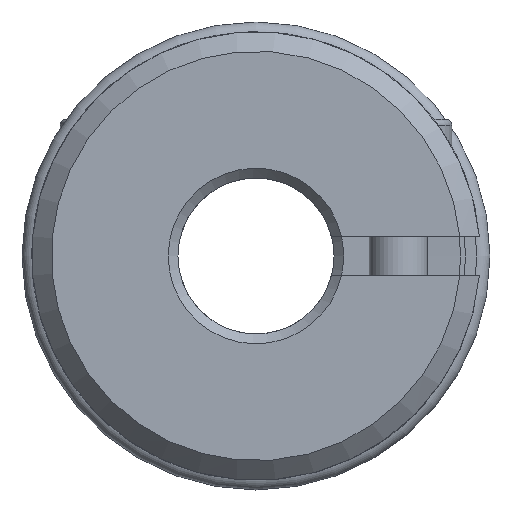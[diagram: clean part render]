
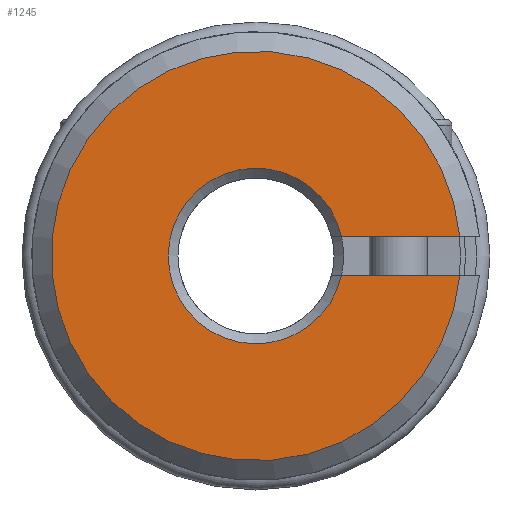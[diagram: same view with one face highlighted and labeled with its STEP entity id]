
A CAD part, left-side view. The second image highlights one B-rep face of the part: STEP entity #1245.
In plain terms, the highlighted planar face has unit normal (-1, 0, 0) as drawn and (1, 0, 0) by its records, which use the part's own axes.
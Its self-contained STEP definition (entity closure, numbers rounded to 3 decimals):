
#34=LINE('',#2231,#68);
#35=LINE('',#2235,#69);
#68=VECTOR('',#1800,1000.);
#69=VECTOR('',#1803,1000.);
#176=PLANE('',#1454);
#352=ORIENTED_EDGE('',*,*,#559,.T.);
#353=ORIENTED_EDGE('',*,*,#560,.T.);
#354=ORIENTED_EDGE('',*,*,#561,.T.);
#355=ORIENTED_EDGE('',*,*,#556,.F.);
#556=EDGE_CURVE('',#687,#688,#790,.T.);
#559=EDGE_CURVE('',#687,#689,#34,.T.);
#560=EDGE_CURVE('',#689,#690,#791,.F.);
#561=EDGE_CURVE('',#690,#688,#35,.T.);
#687=VERTEX_POINT('',#2220);
#688=VERTEX_POINT('',#2221);
#689=VERTEX_POINT('',#2232);
#690=VERTEX_POINT('',#2234);
#790=CIRCLE('',#1453,10.5);
#791=CIRCLE('',#1455,4.5);
#937=EDGE_LOOP('',(#352,#353,#354,#355));
#1107=FACE_BOUND('',#937,.T.);
#1245=ADVANCED_FACE('',(#1107),#176,.T.);
#1453=AXIS2_PLACEMENT_3D('',#2219,#1796,#1797);
#1454=AXIS2_PLACEMENT_3D('',#2230,#1798,#1799);
#1455=AXIS2_PLACEMENT_3D('',#2233,#1801,#1802);
#1796=DIRECTION('',(-1.,0.,0.));
#1797=DIRECTION('',(0.,0.,1.));
#1798=DIRECTION('',(1.,0.,0.));
#1799=DIRECTION('',(0.,0.,-1.));
#1800=DIRECTION('',(0.,-1.,0.));
#1801=DIRECTION('',(1.,0.,0.));
#1802=DIRECTION('',(0.,0.,-1.));
#1803=DIRECTION('',(0.,1.,0.));
#2219=CARTESIAN_POINT('',(9.5,0.,0.));
#2220=CARTESIAN_POINT('',(9.5,10.452,-1.));
#2221=CARTESIAN_POINT('',(9.5,10.452,1.));
#2230=CARTESIAN_POINT('',(9.5,0.,4.));
#2231=CARTESIAN_POINT('',(9.5,18.,-1.));
#2232=CARTESIAN_POINT('',(9.5,4.387,-1.));
#2233=CARTESIAN_POINT('',(9.5,0.,0.));
#2234=CARTESIAN_POINT('',(9.5,4.387,1.));
#2235=CARTESIAN_POINT('',(9.5,-2.5,1.));
